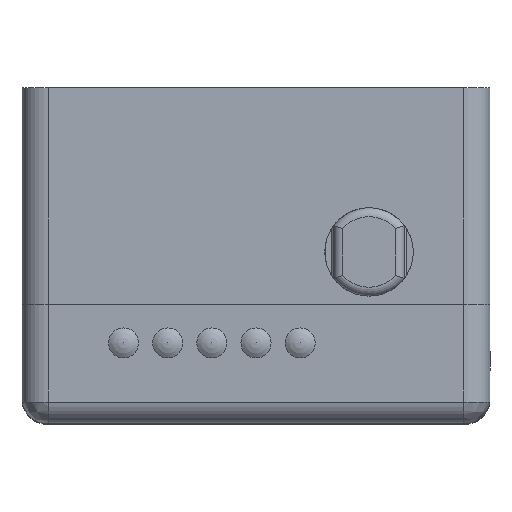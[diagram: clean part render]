
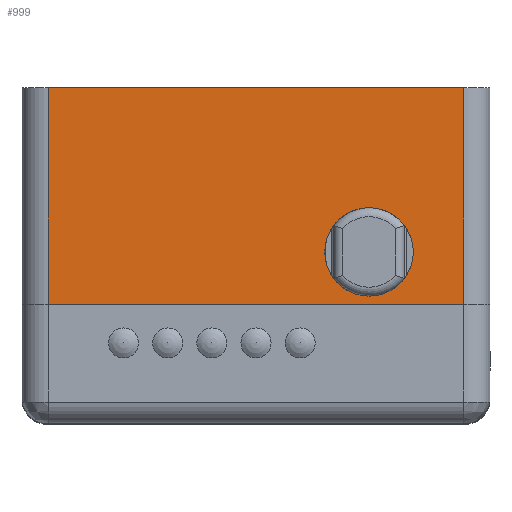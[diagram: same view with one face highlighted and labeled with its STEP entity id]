
A CAD part, top view. The second image highlights one B-rep face of the part: STEP entity #999.
In plain terms, the highlighted planar face has unit normal (0, 0, 1).
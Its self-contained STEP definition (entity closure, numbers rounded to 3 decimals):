
#999 = ADVANCED_FACE( '', ( #2327, #2328 ), #2329, .F. );
#2327 = FACE_OUTER_BOUND( '', #4066, .T. );
#2328 = FACE_BOUND( '', #4067, .T. );
#2329 = PLANE( '', #4068 );
#4066 = EDGE_LOOP( '', ( #6984, #6985, #6986, #6987 ) );
#4067 = EDGE_LOOP( '', ( #6988 ) );
#4068 = AXIS2_PLACEMENT_3D( '', #6989, #6990, #6991 );
#6984 = ORIENTED_EDGE( '', *, *, #9457, .T. );
#6985 = ORIENTED_EDGE( '', *, *, #9944, .F. );
#6986 = ORIENTED_EDGE( '', *, *, #9446, .T. );
#6987 = ORIENTED_EDGE( '', *, *, #9555, .T. );
#6988 = ORIENTED_EDGE( '', *, *, #9945, .F. );
#6989 = CARTESIAN_POINT( '', ( 26.5, -25.5, 28.5 ) );
#6990 = DIRECTION( '', ( 0., 0., -1. ) );
#6991 = DIRECTION( '', ( 0., -1., 0. ) );
#9446 = EDGE_CURVE( '', #11391, #11392, #11393, .T. );
#9457 = EDGE_CURVE( '', #11411, #11409, #11412, .F. );
#9555 = EDGE_CURVE( '', #11392, #11411, #11558, .T. );
#9944 = EDGE_CURVE( '', #11391, #11409, #12119, .T. );
#9945 = EDGE_CURVE( '', #12120, #12120, #12121, .T. );
#11391 = VERTEX_POINT( '', #13966 );
#11392 = VERTEX_POINT( '', #13967 );
#11393 = LINE( '', #13968, #13969 );
#11409 = VERTEX_POINT( '', #13988 );
#11411 = VERTEX_POINT( '', #13990 );
#11412 = LINE( '', #13991, #13992 );
#11558 = LINE( '', #14215, #14216 );
#12119 = LINE( '', #15065, #15066 );
#12120 = VERTEX_POINT( '', #15067 );
#12121 = CIRCLE( '', #15068, 5. );
#13966 = CARTESIAN_POINT( '', ( 23.5, -24.5, 28.5 ) );
#13967 = CARTESIAN_POINT( '', ( 23.5, 0., 28.5 ) );
#13968 = CARTESIAN_POINT( '', ( 23.5, -25.5, 28.5 ) );
#13969 = VECTOR( '', #16531, 1000. );
#13988 = CARTESIAN_POINT( '', ( -23.5, -24.5, 28.5 ) );
#13990 = CARTESIAN_POINT( '', ( -23.5, 0., 28.5 ) );
#13991 = CARTESIAN_POINT( '', ( -23.5, -25.5, 28.5 ) );
#13992 = VECTOR( '', #16550, 1000. );
#14215 = CARTESIAN_POINT( '', ( 26.5, 0., 28.5 ) );
#14216 = VECTOR( '', #16661, 1000. );
#15065 = CARTESIAN_POINT( '', ( 23.5, -24.5, 28.5 ) );
#15066 = VECTOR( '', #17088, 1000. );
#15067 = CARTESIAN_POINT( '', ( 12.8, -23.597, 28.5 ) );
#15068 = AXIS2_PLACEMENT_3D( '', #17089, #17090, #17091 );
#16531 = DIRECTION( '', ( 0., 1., 0. ) );
#16550 = DIRECTION( '', ( 0., 1., 0. ) );
#16661 = DIRECTION( '', ( -1., 0., 0. ) );
#17088 = DIRECTION( '', ( -1., 0., 0. ) );
#17089 = CARTESIAN_POINT( '', ( 12.8, -18.597, 28.5 ) );
#17090 = DIRECTION( '', ( 0., 0., 1. ) );
#17091 = DIRECTION( '', ( 0., -1., 0. ) );
